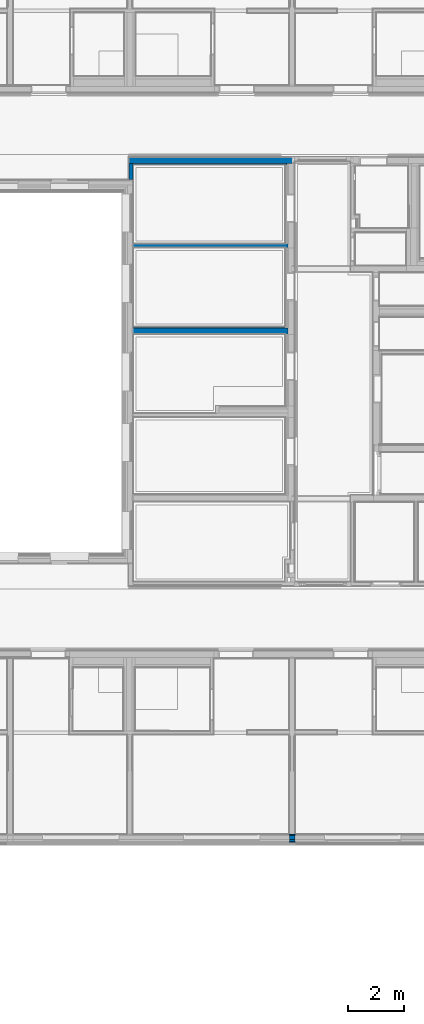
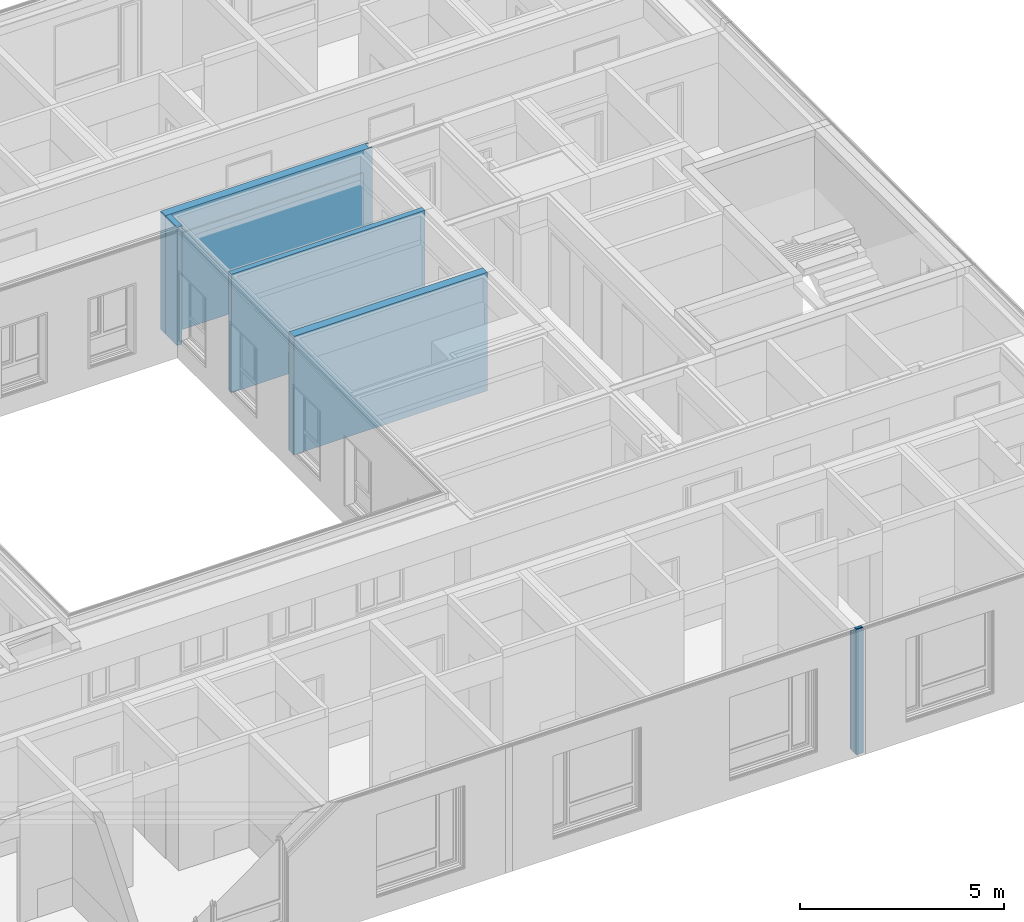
# One storey, part 49 of 222: 10 walls.
"""IFC4 building model written with IfcOpenShell, lengths in metres."""

from ifc_helpers import new_model, entity, si_unit, converted_unit, derived_unit, frame, frame_2d, origin, origin_with_axes, place, context, subcontext, project, spatial, polyline, rectangle, extrude, clip, bounded_halfspace, material, element, save


model = new_model("IFC4")

# Units and contexts
model_context = context("Model", 3, precision=1e-05, world=origin())
body_context = subcontext(model_context, "Body", "Model", "MODEL_VIEW")
ifc_project = project(units=[si_unit("LENGTHUNIT", "METRE"), si_unit("AREAUNIT", "SQUARE_METRE"), si_unit("VOLUMEUNIT", "CUBIC_METRE"), si_unit("MASSUNIT", "GRAM", prefix="KILO"), converted_unit("PLANEANGLEUNIT", "DEGREE", entity("IfcPlaneAngleMeasure", 0.0174532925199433), si_unit("PLANEANGLEUNIT", "RADIAN"), dimensions=[0, 0, 0, 0, 0, 0, 0]), derived_unit("THERMALTRANSMITTANCEUNIT", [(si_unit("POWERUNIT", "WATT"), 1), (si_unit("THERMODYNAMICTEMPERATUREUNIT", "KELVIN"), -1), (si_unit("LENGTHUNIT", "METRE"), -2)]), derived_unit("VOLUMETRICFLOWRATEUNIT", [(si_unit("LENGTHUNIT", "METRE"), 3), (converted_unit("TIMEUNIT", "hour", entity("IfcTimeMeasure", 3600.0), si_unit("TIMEUNIT", "SECOND"), dimensions=[0, 0, 1, 0, 0, 0, 0]), -1), (si_unit("LENGTHUNIT", "METRE"), -1)])], contexts=[model_context])

# Site, building, storey
site_placement = place(None, origin())
site = spatial("IfcSite", under=ifc_project, at=site_placement, Name="Psychiatrie Neubau Wunstorf", CompositionType="ELEMENT")
building_placement = place(site_placement, origin())
building = spatial("IfcBuilding", under=site, at=building_placement, Name="Neubau H2 Stationsgebäude", CompositionType="ELEMENT")
storey_placement = place(building_placement, frame((0.0, 0.0, 3.6)))
storey = spatial("IfcBuildingStorey", under=building, at=storey_placement, Name="H2 Ebene +1", CompositionType="ELEMENT", Elevation=3.6)

# Walls
ifc_material_1 = material(Name="WA-LB")
wall_1_placement = place(storey_placement, frame((96.1, -1.16399999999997, 0.0), z_axis=(0.0, 0.0, 1.0), x_axis=(-1.0, 0.0, 0.0)))
element("IfcWall", 1, at=wall_1_placement, inside=storey, material=ifc_material_1, Name="2x Gipsfaserplatte", context=body_context, shape_type="SweptSolid", body=[
    extrude(rectangle(XDim=0.2, YDim=0.036, at=frame_2d((0.1, 0.018), x_axis=(1.0, 0.0))), origin_with_axes(), (0.0, 0.0, 1.0), 3.55),
])
ifc_material_2 = material(Name="WA-HD")
wall_2_placement = place(storey_placement, frame((96.1, -1.19999999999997, 0.0), z_axis=(0.0, 0.0, 1.0), x_axis=(-1.0, 0.0, 0.0)))
element("IfcWall", 2, at=wall_2_placement, inside=storey, material=ifc_material_2, Name="Holzständer + Zwischendämmung", context=body_context, shape_type="SweptSolid", body=[
    extrude(rectangle(XDim=0.2, YDim=0.16, at=frame_2d((0.1, 0.08), x_axis=(1.0, 0.0))), origin_with_axes(), (0.0, 0.0, 1.0), 3.55),
])
ifc_material_3 = material(Name="WA-DL")
wall_3_placement = place(storey_placement, frame((96.1, -1.35999999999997, 0.0), z_axis=(0.0, 0.0, 1.0), x_axis=(-1.0, 0.0, 0.0)))
element("IfcWall", 3, at=wall_3_placement, inside=storey, material=ifc_material_3, Name="Staffel + Zwischendämmung", context=body_context, shape_type="SweptSolid", body=[
    extrude(rectangle(XDim=0.2, YDim=0.08, at=frame_2d((0.1, 0.04), x_axis=(1.0, 0.0))), origin_with_axes(), (0.0, 0.0, 1.0), 3.75),
])
ifc_material_4 = material(Name="WA-LB")
wall_4_placement = place(storey_placement, frame((96.1, -1.43999999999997, 0.0), z_axis=(0.0, 0.0, 1.0), x_axis=(-1.0, 0.0, 0.0)))
element("IfcWall", 4, at=wall_4_placement, inside=storey, material=ifc_material_4, context=body_context, shape_type="SweptSolid", body=[
    extrude(rectangle(XDim=0.2, YDim=0.036, at=frame_2d((0.1, 0.018), x_axis=(1.0, 0.0))), origin_with_axes(), (0.0, 0.0, 1.0), 3.75),
])
ifc_material_5 = material(Name="WI-LB")
wall_5_placement = place(storey_placement, frame((95.8504999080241, 19.768, 0.0), z_axis=(0.0, 0.0, 1.0), x_axis=(-1.0, 0.0, 0.0)))
element("IfcWall", 5, at=wall_5_placement, inside=storey, material=ifc_material_5, context=body_context, shape_type="SweptSolid", body=[
    extrude(rectangle(XDim=5.48949990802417, YDim=0.15, at=frame_2d((2.74474995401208, 0.075), x_axis=(1.0, 0.0))), origin_with_axes(), (0.0, 0.0, 1.0), 3.55),
])
ifc_material_6 = material(Name="WI-LB")
wall_6_placement = place(storey_placement, frame((90.361, 22.564, 0.0)))
element("IfcWall", 6, at=wall_6_placement, inside=storey, material=ifc_material_6, context=body_context, shape_type="SweptSolid", body=[
    extrude(rectangle(XDim=5.43949990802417, YDim=0.04, at=frame_2d((2.71974995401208, 0.02), x_axis=(1.0, 0.0))), origin_with_axes(), (0.0, 0.0, 1.0), 2.9),
])
ifc_material_7 = material(Name="WI-HW 60")
wall_7_placement = place(storey_placement, frame((90.211, 22.604, 0.0)))
element("IfcWall", 7, at=wall_7_placement, inside=storey, material=ifc_material_7, context=body_context, shape_type="Clipping", body=[
    clip(extrude(rectangle(XDim=5.87149995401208, YDim=0.232000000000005, at=frame_2d((2.93574997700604, 0.116000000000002), x_axis=(1.0, 0.0))), origin_with_axes(), (0.0, 0.0, 1.0), 3.55), bounded_halfspace(frame((5.83024988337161, 0.116002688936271, 3.35), z_axis=(0.0, 0.0, -1.0), x_axis=(0.0, -1.0, 0.0)), True, origin_with_axes(), polyline([(5.78899983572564, 0.196002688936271), (5.78899983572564, 0.0360026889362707), (5.87149994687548, 0.0360026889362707), (5.87149991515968, 0.196002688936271), (5.78899983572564, 0.196002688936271)]))),
])
ifc_material_8 = material(Name="WI-LB")
wall_8_placement = place(storey_placement, frame((95.7609999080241, 16.8255, 0.0), z_axis=(0.0, 0.0, 1.0), x_axis=(-1.0, 0.0, 0.0)))
element("IfcWall", 8, at=wall_8_placement, inside=storey, material=ifc_material_8, context=body_context, shape_type="SweptSolid", body=[
    extrude(rectangle(XDim=5.39999990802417, YDim=0.04, at=frame_2d((2.69999995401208, 0.02), x_axis=(1.0, 0.0))), origin_with_axes(), (0.0, 0.0, 1.0), 2.9),
])
ifc_material_9 = material(Name="WI-HW 60")
wall_9_placement = place(storey_placement, frame((95.8504999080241, 16.7855, 0.0), z_axis=(0.0, 0.0, 1.0), x_axis=(-1.0, 0.0, 0.0)))
element("IfcWall", 9, at=wall_9_placement, inside=storey, material=ifc_material_9, context=body_context, shape_type="SweptSolid", body=[
    extrude(rectangle(XDim=5.48949990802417, YDim=0.232, at=frame_2d((2.74474995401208, 0.116), x_axis=(1.0, 0.0))), origin_with_axes(), (0.0, 0.0, 1.0), 3.55),
])
ifc_material_10 = material(Name="WI-LB")
wall_10_placement = place(storey_placement, frame((90.361, 22.036, 0.0), z_axis=(0.0, 0.0, 1.0), x_axis=(0.0, 1.0, 0.0)))
element("IfcWall", 10, at=wall_10_placement, inside=storey, material=ifc_material_10, context=body_context, shape_type="SweptSolid", body=[
    extrude(rectangle(XDim=0.568, YDim=0.15, at=frame_2d((0.284, 0.075), x_axis=(1.0, 0.0))), origin_with_axes(), (0.0, 0.0, 1.0), 3.55),
])

save(model, "model.ifc")
